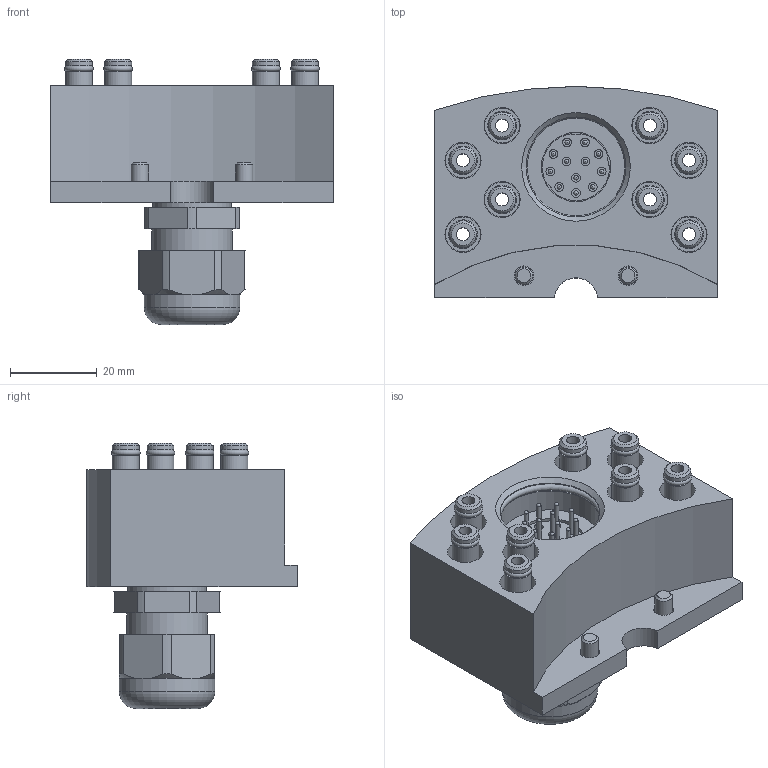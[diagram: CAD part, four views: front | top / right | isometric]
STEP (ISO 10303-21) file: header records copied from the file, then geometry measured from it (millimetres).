
FILE_DESCRIPTION(/* description */ (''),/* implementation_level */ '2;1');
FILE_NAME(/* name */ '\\dc01\daten\CAD\Standard\Daten\3D-Datenbank\Webseite 2020\MGW\MGW125\G-MEK125-O-8Pk4-1E12.stp',/* time_stamp */ '2020-04-28T15:08:00+02:00',/* author */ ('ysplieth'),/* organization */ (''),/* preprocessor_version */ 'ST-DEVELOPER v17',/* originating_system */ 'Autodesk Inventor 2018',/* authorisation */ '');
FILE_SCHEMA (('AUTOMOTIVE_DESIGN { 1 0 10303 214 3 1 1 }'));
Length unit declared in the file: millimetre
Products named in the file (1): G-MEK125-O-8Pk4-1E12
Bounding box: 65 x 48.5 x 61 mm (x, y, z)
Volume: 64358.9 mm3; surface area: 34452.2 mm2
Topology: 24 solids, 24 shells, 509 faces, 1354 edges, 961 vertices
Faces by surface type: cylinder 208, plane 205, cone 69, torus 15, sphere 12
Full cylindrical faces by diameter (mm): 1 x12, 1.6 x12, 2 x26, 2.013 x2, 3 x8, 4 x10, 4.2 x16, 4.5 x2, 4.8 x8, 5.5 x8, 5.9 x8, 6 x8, 6.2 x16, 7 x2, 8 x10, 8.3 x8, 9 x8, 10 x1, 14 x1, 15.9 x1, 17.1 x1, 18.1 x1, 18.5 x1, 22 x1, 23 x2, 25.5 x1
Entity records: 17622 total; most frequent: CARTESIAN_POINT 3529, DIRECTION 3082, ORIENTED_EDGE 2652, EDGE_CURVE 1326, AXIS2_PLACEMENT_3D 1300, VERTEX_POINT 961, CIRCLE 790, EDGE_LOOP 667
